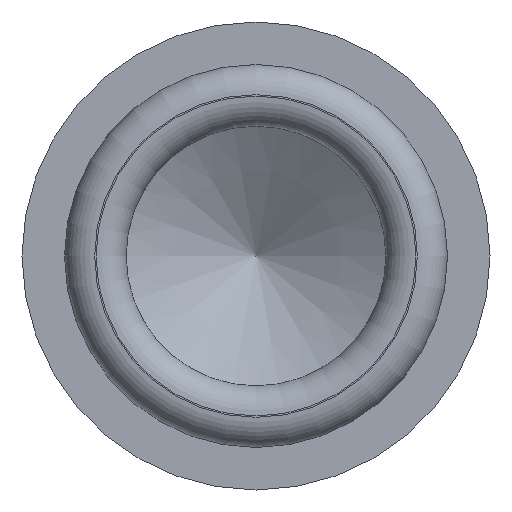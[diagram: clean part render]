
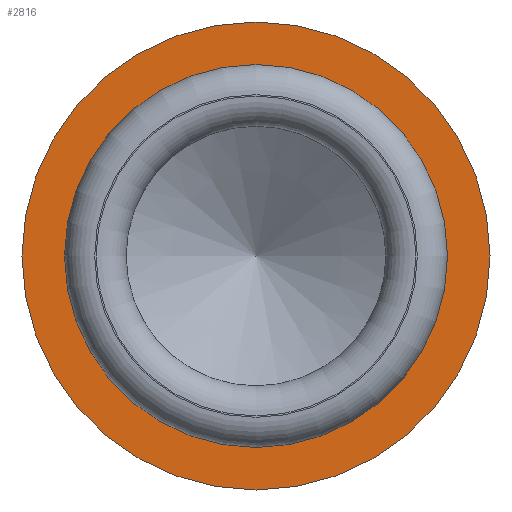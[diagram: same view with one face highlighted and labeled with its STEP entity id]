
A CAD part, left-side view. The second image highlights one B-rep face of the part: STEP entity #2816.
In plain terms, the highlighted planar face has unit normal (-1, 0, 0).
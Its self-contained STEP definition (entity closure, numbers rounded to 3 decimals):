
#712=PLANE($,#3110);
#722=FACE_BOUND($,#1055,.T.);
#885=FACE_OUTER_BOUND($,#1054,.T.);
#1054=EDGE_LOOP($,(#2585));
#1055=EDGE_LOOP($,(#2586));
#1072=CIRCLE($,#2836,1.143);
#1194=CIRCLE($,#3111,1.397);
#1204=VERTEX_POINT($,#4002);
#1446=VERTEX_POINT($,#4789);
#1456=EDGE_CURVE($,#1204,#1204,#1072,.T.);
#1848=EDGE_CURVE($,#1446,#1446,#1194,.T.);
#2585=ORIENTED_EDGE($,*,*,#1848,.F.);
#2586=ORIENTED_EDGE($,*,*,#1456,.T.);
#2816=ADVANCED_FACE($,(#885,#722),#712,.T.);
#2836=AXIS2_PLACEMENT_3D($,#4003,#3144,#3145);
#3110=AXIS2_PLACEMENT_3D($,#4788,#3962,#3963);
#3111=AXIS2_PLACEMENT_3D($,#4790,#3964,#3965);
#3144=DIRECTION('center_axis',(1.,0.,0.));
#3145=DIRECTION('ref_axis',(0.,1.,0.));
#3962=DIRECTION('center_axis',(-1.,0.,0.));
#3963=DIRECTION('ref_axis',(0.,0.,1.));
#3964=DIRECTION('center_axis',(1.,0.,0.));
#3965=DIRECTION('ref_axis',(0.,1.,0.));
#4002=CARTESIAN_POINT('',(0.432,1.143,0.));
#4003=CARTESIAN_POINT('Origin',(0.432,0.,0.));
#4788=CARTESIAN_POINT('Origin',(0.432,1.27,0.));
#4789=CARTESIAN_POINT('',(0.432,1.397,0.));
#4790=CARTESIAN_POINT('Origin',(0.432,0.,
0.));
